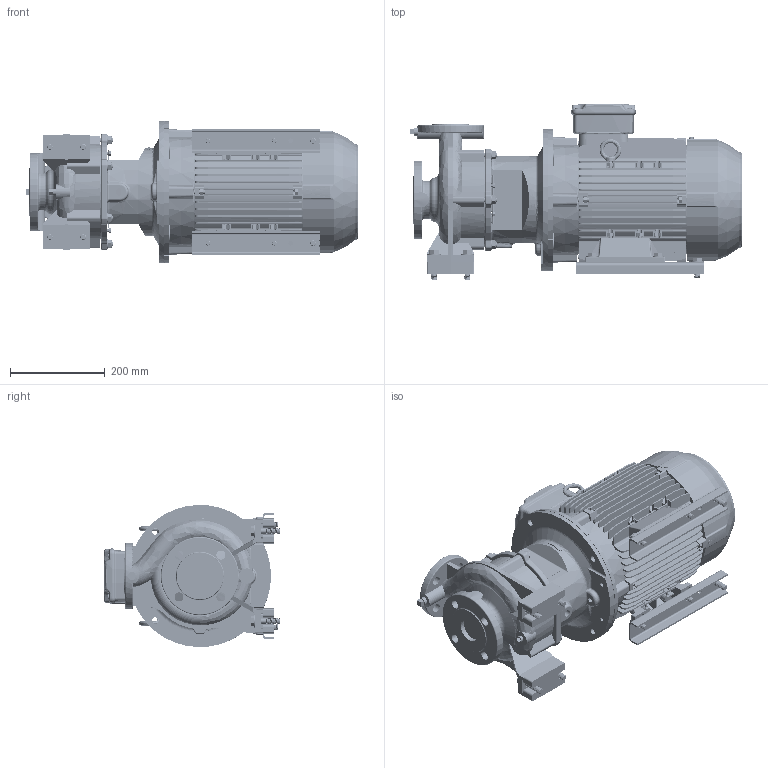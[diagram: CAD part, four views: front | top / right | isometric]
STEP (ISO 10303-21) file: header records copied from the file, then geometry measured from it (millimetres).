
FILE_DESCRIPTION (( 'STEP AP214' ), '1' );
FILE_NAME ('GSD2 32-160_5.5_(132S)_W21.STEP', '2026-07-02T04:58:36', ( '' ), ( '' ), 'SwSTEP 2.0', 'SolidWorks 2024', '' );
FILE_SCHEMA (( 'AUTOMOTIVE_DESIGN' ));
Length unit declared in the file: millimetre
Products named in the file (13): Parametric Flat Washer_M10; 140_178 x 25 - CGSDA-5240; Parametric bolt and washer_SFT-A253B; Parametric bolt_SFT-A301B; GSD2  32-160_5.5_(132S)_W21; CGS11-5301_2_3_4_5_CGS11-5302; Parametric Flat Washer_M12; Parametric bolt_SFT-A309B; Parametric bolt_SFT-A253B; 132S ALIE3_W21T_B35; Parametric bolt and washer_SFT-A301B; Parametric bolt and washer_SFT-A309B; 32-160-132S
Assembly tree (22 placements, depth 3):
  GSD2  32-160_5.5_(132S)_W21
    32-160-132S
    CGS11-5301_2_3_4_5_CGS11-5302  x2
    140_178 x 25 - CGSDA-5240  x2
    Parametric bolt and washer_SFT-A309B  x4
      Parametric bolt_SFT-A309B
      Parametric Flat Washer_M12
    Parametric bolt and washer_SFT-A301B  x2
      Parametric bolt_SFT-A301B
      Parametric Flat Washer_M12
    Parametric bolt and washer_SFT-A253B  x4
      Parametric bolt_SFT-A253B
      Parametric Flat Washer_M10
    132S ALIE3_W21T_B35
Bounding box: 700.45 x 372.5 x 300 mm (x, y, z)
Volume: 26066204 mm3; surface area: 1862571.2 mm2
Topology: 43 solids, 43 shells, 4902 faces, 12796 edges, 8321 vertices
Faces by surface type: plane 2917, cylinder 1168, torus 305, bspline 253, cone 227, sphere 32
Entity records: 166005 total; most frequent: CARTESIAN_POINT 58457, ORIENTED_EDGE 23098, DIRECTION 20934, EDGE_CURVE 11549, LINE 7726, VECTOR 7726, VERTEX_POINT 7516, AXIS2_PLACEMENT_3D 6604
